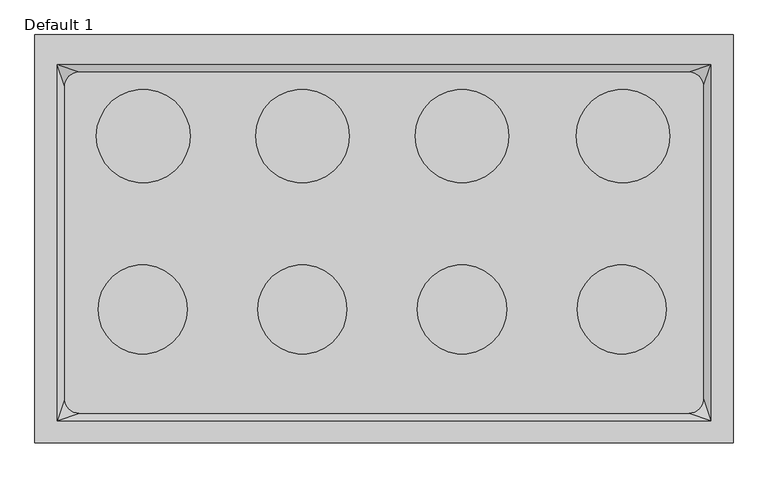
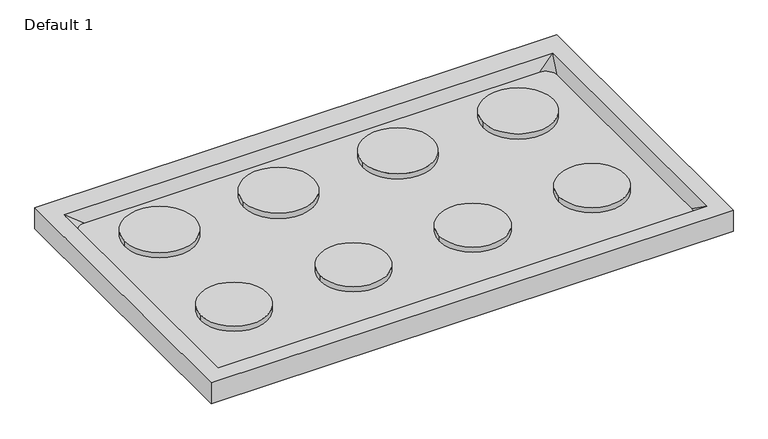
"""IFC4 building model written with IfcOpenShell, lengths in millimetres: proxy geometry, Stovetop 8 : Default 1."""

from ifc_helpers import new_model, si_unit, point, frame, frame_2d, origin, place, context, project, spatial, circle_curve, trimmed, segment, composite_curve, outline, extrude, source, transform, mapped, element, save
from ifc_brep_helpers import plane_surface, spline_surface, advanced_brep


def default_1_19c50d5e(model_context):
    return source(origin(), model_context, "Body", "SolidModel", [
        extrude(outline(composite_curve([segment(trimmed(circle_curve(frame_2d((-411.6625, -173.078716)), 80.0), [point((-491.6625, -173.078716))], [point((-331.6625, -173.078716))], False, "CARTESIAN"), True, "CONTINUOUS"), segment(trimmed(circle_curve(frame_2d((-411.6625, -173.078716)), 80.0), [point((-331.6625, -173.078716))], [point((-491.6625, -173.078716))], False, "CARTESIAN"), True, "CONTINUOUS")], self_intersect=False)), frame((0.0, 0.0, 939.8), z_axis=(0.0, 0.0, 1.0), x_axis=(1.0, 0.0, 0.0)), (0.0, 0.0, 1.0), 12.7),
        extrude(outline(composite_curve([segment(trimmed(circle_curve(frame_2d((-139.7, -173.078716)), 80.0), [point((-219.7, -173.078716))], [point((-59.7, -173.078716))], False, "CARTESIAN"), True, "CONTINUOUS"), segment(trimmed(circle_curve(frame_2d((-139.7, -173.078716)), 80.0), [point((-59.7, -173.078716))], [point((-219.7, -173.078716))], False, "CARTESIAN"), True, "CONTINUOUS")], self_intersect=False)), frame((0.0, 0.0, 939.8), z_axis=(0.0, 0.0, 1.0), x_axis=(1.0, 0.0, 0.0)), (0.0, 0.0, 1.0), 12.7),
        extrude(outline(composite_curve([segment(trimmed(circle_curve(frame_2d((133.35, -173.078716)), 80.0), [point((53.35, -173.078716))], [point((213.35, -173.078716))], False, "CARTESIAN"), True, "CONTINUOUS"), segment(trimmed(circle_curve(frame_2d((133.35, -173.078716)), 80.0), [point((213.35, -173.078716))], [point((53.35, -173.078716))], False, "CARTESIAN"), True, "CONTINUOUS")], self_intersect=False)), frame((0.0, 0.0, 939.8), z_axis=(0.0, 0.0, 1.0), x_axis=(1.0, 0.0, 0.0)), (0.0, 0.0, 1.0), 12.7),
        extrude(outline(composite_curve([segment(trimmed(circle_curve(frame_2d((408.4708333, -173.078716)), 80.0), [point((328.4708333, -173.078716))], [point((488.4708333, -173.078716))], False, "CARTESIAN"), True, "CONTINUOUS"), segment(trimmed(circle_curve(frame_2d((408.4708333, -173.078716)), 80.0), [point((488.4708333, -173.078716))], [point((328.4708333, -173.078716))], False, "CARTESIAN"), True, "CONTINUOUS")], self_intersect=False)), frame((0.0, 0.0, 939.8), z_axis=(0.0, 0.0, 1.0), x_axis=(1.0, 0.0, 0.0)), (0.0, 0.0, 1.0), 12.7),
        extrude(outline(composite_curve([segment(trimmed(circle_curve(frame_2d((406.4, -469.9)), 76.2), [point((330.2, -469.9))], [point((482.6, -469.9))], False, "CARTESIAN"), True, "CONTINUOUS"), segment(trimmed(circle_curve(frame_2d((406.4, -469.9)), 76.2), [point((482.6, -469.9))], [point((330.2, -469.9))], False, "CARTESIAN"), True, "CONTINUOUS")], self_intersect=False)), frame((0.0, 0.0, 939.8), z_axis=(0.0, 0.0, 1.0), x_axis=(1.0, 0.0, 0.0)), (0.0, 0.0, 1.0), 12.7),
        extrude(outline(composite_curve([segment(trimmed(circle_curve(frame_2d((133.35, -469.9)), 76.2), [point((57.15, -469.9))], [point((209.55, -469.9))], False, "CARTESIAN"), True, "CONTINUOUS"), segment(trimmed(circle_curve(frame_2d((133.35, -469.9)), 76.2), [point((209.55, -469.9))], [point((57.15, -469.9))], False, "CARTESIAN"), True, "CONTINUOUS")], self_intersect=False)), frame((0.0, 0.0, 939.8), z_axis=(0.0, 0.0, 1.0), x_axis=(1.0, 0.0, 0.0)), (0.0, 0.0, 1.0), 12.7),
        extrude(outline(composite_curve([segment(trimmed(circle_curve(frame_2d((-139.7, -469.9)), 76.2), [point((-215.9, -469.9))], [point((-63.5, -469.9))], False, "CARTESIAN"), True, "CONTINUOUS"), segment(trimmed(circle_curve(frame_2d((-139.7, -469.9)), 76.2), [point((-63.5, -469.9))], [point((-215.9, -469.9))], False, "CARTESIAN"), True, "CONTINUOUS")], self_intersect=False)), frame((0.0, 0.0, 939.8), z_axis=(0.0, 0.0, 1.0), x_axis=(1.0, 0.0, 0.0)), (0.0, 0.0, 1.0), 12.7),
        extrude(outline(composite_curve([segment(trimmed(circle_curve(frame_2d((-412.75, -469.9)), 76.2), [point((-488.95, -469.9))], [point((-336.55, -469.9))], False, "CARTESIAN"), True, "CONTINUOUS"), segment(trimmed(circle_curve(frame_2d((-412.75, -469.9)), 76.2), [point((-336.55, -469.9))], [point((-488.95, -469.9))], False, "CARTESIAN"), True, "CONTINUOUS")], self_intersect=False)), frame((0.0, 0.0, 939.8), z_axis=(0.0, 0.0, 1.0), x_axis=(1.0, 0.0, 0.0)), (0.0, 0.0, 1.0), 12.7),
        advanced_brep(
        [(596.9, 0.0, 965.2), (-596.9, 0.0, 965.2), (-596.9, -698.5, 965.2), (596.9, -698.5, 965.2), (-558.8, -660.4, 965.2), (-558.8, -50.8, 965.2), (558.8, -50.8, 965.2), (558.8, -660.4, 965.2), (596.9, 0.0, 914.4), (596.9, -698.5, 914.4), (-596.9, -698.5, 914.4), (-596.9, 0.0, 914.4), (-520.7, -63.5, 939.8), (-546.1, -88.9, 939.8), (-546.1, -622.3, 939.8), (-520.7, -647.7, 939.8), (520.7, -647.7, 939.8), (546.1, -622.3, 939.8), (546.1, -88.9, 939.8), (520.7, -63.5, 939.8)],
        [
            (0, 1),
            (1, 2),
            (2, 3),
            (3, 0),
            (4, 5),
            (5, 6),
            (6, 7),
            (7, 4),
            (8, 9),
            (9, 10),
            (10, 11),
            (11, 8),
            (0, 8),
            (11, 1),
            (10, 2),
            (9, 3),
            (12, 13, circle_curve(frame((-520.7, -88.9, 939.8), z_axis=(0.0, 0.0, 1.0), x_axis=(1.0, 0.0, 0.0)), 25.4)),
            (13, 14),
            (14, 15, circle_curve(frame((-520.7, -622.3, 939.8), z_axis=(0.0, 0.0, 1.0), x_axis=(1.0, 0.0, 0.0)), 25.4)),
            (15, 16),
            (16, 17, circle_curve(frame((520.7, -622.3, 939.8), z_axis=(0.0, 0.0, 1.0), x_axis=(1.0, 0.0, 0.0)), 25.4)),
            (17, 18),
            (18, 19, circle_curve(frame((520.7, -88.9, 939.8), z_axis=(0.0, 0.0, 1.0), x_axis=(1.0, 0.0, 0.0)), 25.4)),
            (19, 12),
            (12, 5),
            (5, 13),
            (4, 14),
            (4, 15),
            (7, 16),
            (7, 17),
            (6, 18),
            (6, 19),
        ],
        [
            plane_surface(frame((-596.9, 0.0, 965.2), z_axis=(0.0, 0.0, 1.0), x_axis=(-1.0, 0.0, 0.0))),
            plane_surface(frame((-596.9, 0.0, 914.4), z_axis=(0.0, 0.0, -1.0), x_axis=(1.0, 0.0, 0.0))),
            plane_surface(frame((596.9, 0.0, 965.2), z_axis=(0.0, 1.0, 0.0), x_axis=(0.0, 0.0, -1.0))),
            plane_surface(frame((-596.9, 0.0, 965.2), z_axis=(-1.0, 0.0, 0.0), x_axis=(0.0, 0.0, -1.0))),
            plane_surface(frame((-596.9, -698.5, 965.2), z_axis=(0.0, -1.0, 0.0), x_axis=(0.0, 0.0, -1.0))),
            plane_surface(frame((596.9, -698.5, 965.2), z_axis=(1.0, 0.0, 0.0), x_axis=(0.0, 0.0, -1.0))),
            plane_surface(frame((0.0, -355.6, 939.8), z_axis=(0.0, 0.0, 1.0), x_axis=(-1.0, 0.0, 0.0))),
            spline_surface(1, 2, [[(-520.7, -63.5, 939.8), (-546.1, -63.499999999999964, 939.8), (-546.1, -88.9, 939.8)], [(-558.8, -50.8, 965.2), (-558.8, -50.8, 965.2), (-558.8, -50.8, 965.2)]], [2, 2], [3, 3], [0.0, 1.0], [0.0, 1.0], weights=[[1.0, 0.7071067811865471, 1.0], [1.0, 0.7071067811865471, 1.0]]),
            plane_surface(frame((-546.1, -355.6, 939.8), z_axis=(0.894427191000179, 0.0, 0.4472135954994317), x_axis=(0.0, -1.0, 0.0))),
            spline_surface(1, 2, [[(-546.1, -622.3, 939.8), (-546.0999999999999, -647.6999999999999, 939.8), (-520.7, -647.7, 939.8)], [(-558.8, -660.4, 965.2), (-558.8, -660.4, 965.2), (-558.8, -660.4, 965.2)]], [2, 2], [3, 3], [0.0, 1.0], [0.0, 1.0], weights=[[1.0, 0.7071067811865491, 1.0], [1.0, 0.7071067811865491, 1.0]]),
            plane_surface(frame((0.0, -647.7, 939.8), z_axis=(0.0, 0.8944271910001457, 0.44721359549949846), x_axis=(1.0, 0.0, 0.0))),
            spline_surface(1, 2, [[(520.7, -647.7, 939.8), (546.1000000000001, -647.7000000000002, 939.8), (546.1, -622.3, 939.8)], [(558.8, -660.4, 965.2), (558.8, -660.4, 965.2), (558.8, -660.4, 965.2)]], [2, 2], [3, 3], [0.0, 1.0], [0.0, 1.0], weights=[[1.0, 0.7071067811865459, 1.0], [1.0, 0.7071067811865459, 1.0]]),
            plane_surface(frame((546.1, -355.6, 939.8), z_axis=(-0.8944271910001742, 0.0, 0.44721359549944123), x_axis=(0.0, 1.0, 0.0))),
            spline_surface(1, 2, [[(546.1, -88.9, 939.8), (546.1, -63.50000000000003, 939.8), (520.7, -63.5, 939.8)], [(558.8, -50.8, 965.2), (558.8, -50.8, 965.2), (558.8, -50.8, 965.2)]], [2, 2], [3, 3], [0.0, 1.0], [0.0, 1.0], weights=[[1.0, 0.7071067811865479, 1.0], [1.0, 0.7071067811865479, 1.0]]),
            plane_surface(frame((0.0, -63.5, 939.8), z_axis=(0.0, -0.8944271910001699, 0.4472135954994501), x_axis=(-1.0, 0.0, 0.0))),
        ],
        [
            (0, [[1, 2, 3, 4], [5, 6, 7, 8]]),
            (1, [[9, 10, 11, 12]]),
            (2, [[-1, 13, -12, 14]]),
            (3, [[-2, -14, -11, 15]]),
            (4, [[-3, -15, -10, 16]]),
            (5, [[-4, -16, -9, -13]]),
            (6, [[17, 18, 19, 20, 21, 22, 23, 24]]),
            (7, [[-17, 25, 26]]),
            (8, [[-18, -26, -5, 27]]),
            (9, [[-19, -27, 28]]),
            (10, [[-20, -28, -8, 29]]),
            (11, [[-21, -29, 30]]),
            (12, [[-22, -30, -7, 31]]),
            (13, [[-23, -31, 32]]),
            (14, [[-24, -32, -6, -25]]),
        ],
    ),
    ])


if __name__ == "__main__":
    model = new_model("IFC4")
    model_context = context("Model", 3, world=origin())
    ifc_project = project(units=[si_unit("LENGTHUNIT", "METRE", prefix="MILLI")], contexts=[model_context])
    site = spatial("IfcSite", under=ifc_project)
    building = spatial("IfcBuilding", under=site)
    placement = place(None, origin())
    default_1_shape = default_1_19c50d5e(model_context)
    element("IfcBuildingElementProxy", 1, Name="Stovetop 8 : Default 1", ObjectType="Stovetop 8 : Default 1", at=placement, inside=building, context=model_context, shape_type="MappedRepresentation", body=[
        mapped(default_1_shape, transform((0.0, 0.0, 0.0), x_axis=(1.0, 0.0, 0.0), y_axis=(0.0, 1.0, 0.0), z_axis=(0.0, 0.0, 1.0))),
    ])
    save(model, "model.ifc")
